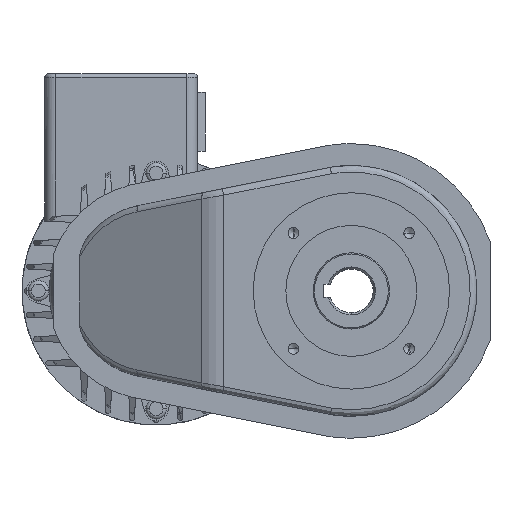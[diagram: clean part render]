
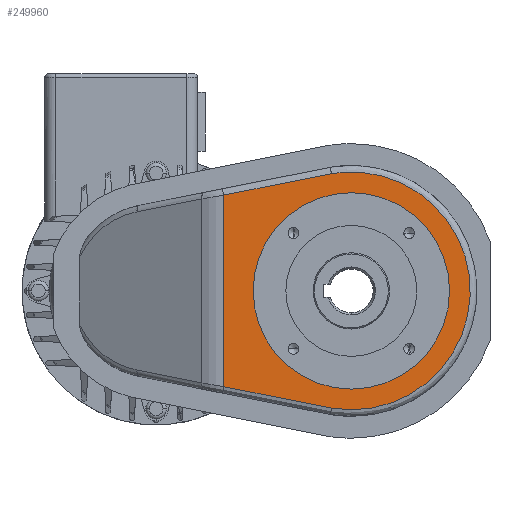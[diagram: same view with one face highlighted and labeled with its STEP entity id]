
A CAD part, left-side view. The second image highlights one B-rep face of the part: STEP entity #249960.
In plain terms, the highlighted planar face has unit normal (-1, 0, 0).
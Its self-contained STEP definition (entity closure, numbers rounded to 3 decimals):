
#248810=CARTESIAN_POINT('',(-204.3,341.55,-105.));
#248820=VERTEX_POINT('',#248810);
#248850=CARTESIAN_POINT('',(-204.3,341.55,-150.));
#248860=DIRECTION('',(-1.,0.,0.));
#248870=DIRECTION('',(0.,0.,1.));
#248880=AXIS2_PLACEMENT_3D('',#248850,#248860,#248870);
#248890=CIRCLE('',#248880,45.);
#248900=CARTESIAN_POINT('',(-204.3,341.55,-195.));
#248910=VERTEX_POINT('',#248900);
#248920=EDGE_CURVE('',#248910,#248820,#248890,.T.);
#249040=CARTESIAN_POINT('',(-204.3,357.75,-103.971));
#249050=DIRECTION('',(-1.,0.,0.));
#249060=DIRECTION('',(0.,0.,1.));
#249070=AXIS2_PLACEMENT_3D('',#249040,#249050,#249060);
#249080=PLANE('',#249070);
#249090=CARTESIAN_POINT('',(-204.3,400.016,-103.62));
#249100=DIRECTION('',(0.,0.,1.));
#249110=VECTOR('',#249100,1.);
#249120=LINE('',#249090,#249110);
#249130=CARTESIAN_POINT('',(-204.3,400.016,-193.9));
#249140=VERTEX_POINT('',#249130);
#249150=CARTESIAN_POINT('',(-204.3,400.016,-106.1));
#249160=VERTEX_POINT('',#249150);
#249170=EDGE_CURVE('',#249140,#249160,#249120,.T.);
#249180=ORIENTED_EDGE('',*,*,#249170,.F.);
#249190=CARTESIAN_POINT('',(-204.3,350.644,-96.263));
#249200=CARTESIAN_POINT('',(-204.3,350.769,-96.288));
#249210=CARTESIAN_POINT('',(-204.3,350.887,-96.313));
#249220=CARTESIAN_POINT('',(-204.3,367.212,-99.565));
#249230=CARTESIAN_POINT('',(-204.3,383.406,-102.791));
#249240=CARTESIAN_POINT('',(-204.3,399.738,-106.045));
#249250=CARTESIAN_POINT('',(-204.3,399.877,-106.072));
#249260=CARTESIAN_POINT('',(-204.3,400.016,-106.1));
#249270=B_SPLINE_CURVE_WITH_KNOTS('',3,(#249190,#249200,#249210,#249220,
#249230,#249240,#249250,#249260),.UNSPECIFIED.,.F.,.F.,(4,2,2,4),(0.,
0.401,49.937,50.361),.UNSPECIFIED.);
#249280=CARTESIAN_POINT('',(-204.3,350.644,-96.263));
#249290=VERTEX_POINT('',#249280);
#249300=EDGE_CURVE('',#249290,#249160,#249270,.T.);
#249310=ORIENTED_EDGE('',*,*,#249300,.T.);
#249320=CARTESIAN_POINT('',(-204.3,350.644,-203.737));
#249330=CARTESIAN_POINT('',(-204.3,350.583,-203.747));
#249340=CARTESIAN_POINT('',(-204.3,350.524,-203.757));
#249350=CARTESIAN_POINT('',(-204.3,350.403,-203.776));
#249360=CARTESIAN_POINT('',(-204.3,350.342,-203.786));
#249370=CARTESIAN_POINT('',(-204.3,347.579,-204.235));
#249380=CARTESIAN_POINT('',(-204.3,344.847,-204.469));
#249390=CARTESIAN_POINT('',(-204.3,337.606,-204.543));
#249400=CARTESIAN_POINT('',(-204.3,333.116,-204.031));
#249410=CARTESIAN_POINT('',(-204.3,324.365,-201.915));
#249420=CARTESIAN_POINT('',(-204.3,320.138,-200.319));
#249430=CARTESIAN_POINT('',(-204.3,312.171,-196.124));
#249440=CARTESIAN_POINT('',(-204.3,308.464,-193.541));
#249450=CARTESIAN_POINT('',(-204.3,301.768,-187.522));
#249460=CARTESIAN_POINT('',(-204.3,298.806,-184.109));
#249470=CARTESIAN_POINT('',(-204.3,293.788,-176.634));
#249480=CARTESIAN_POINT('',(-204.3,291.753,-172.599));
#249490=CARTESIAN_POINT('',(-204.3,289.184,-165.42));
#249500=CARTESIAN_POINT('',(-204.3,288.386,-162.395));
#249510=CARTESIAN_POINT('',(-204.3,287.318,-156.24));
#249520=CARTESIAN_POINT('',(-204.3,287.05,-153.123));
#249530=CARTESIAN_POINT('',(-204.3,287.05,-150.));
#249540=CARTESIAN_POINT('',(-204.3,287.05,-145.498));
#249550=CARTESIAN_POINT('',(-204.3,287.608,-141.014));
#249560=CARTESIAN_POINT('',(-204.3,289.813,-132.285));
#249570=CARTESIAN_POINT('',(-204.3,291.452,-128.074));
#249580=CARTESIAN_POINT('',(-204.3,295.729,-120.151));
#249590=CARTESIAN_POINT('',(-204.3,298.35,-116.47));
#249600=CARTESIAN_POINT('',(-204.3,304.437,-109.836));
#249610=CARTESIAN_POINT('',(-204.3,307.88,-106.909));
#249620=CARTESIAN_POINT('',(-204.3,315.406,-101.968));
#249630=CARTESIAN_POINT('',(-204.3,319.461,-99.974));
#249640=CARTESIAN_POINT('',(-204.3,327.969,-97.028));
#249650=CARTESIAN_POINT('',(-204.3,332.389,-96.087));
#249660=CARTESIAN_POINT('',(-204.3,341.359,-95.315));
#249670=CARTESIAN_POINT('',(-204.3,345.875,-95.486));
#249680=CARTESIAN_POINT('',(-204.3,350.375,-96.219));
#249690=CARTESIAN_POINT('',(-204.3,350.43,-96.228));
#249700=CARTESIAN_POINT('',(-204.3,350.537,-96.245));
#249710=CARTESIAN_POINT('',(-204.3,350.59,-96.254));
#249720=CARTESIAN_POINT('',(-204.3,350.644,-96.263));
#249730=B_SPLINE_CURVE_WITH_KNOTS('',3,(#249320,#249330,#249340,#249350,
#249360,#249370,#249380,#249390,#249400,#249410,#249420,#249430,#249440,
#249450,#249460,#249470,#249480,#249490,#249500,#249510,#249520,#249530,
#249540,#249550,#249560,#249570,#249580,#249590,#249600,#249610,#249620,
#249630,#249640,#249650,#249660,#249670,#249680,#249690,#249700,#249710,
#249720),.UNSPECIFIED.,.F.,.F.,(4,2,2,2,2,2,2,2,2,2,3,2,2,2,2,2,2,2,2,4)
,(0.,0.2,0.401,8.841,22.71
,36.578,50.446,64.314,78.182,
87.804,97.425,111.293,125.161,
139.029,152.898,166.766,180.634,
194.502,194.681,194.861),.UNSPECIFIED.);
#249740=CARTESIAN_POINT('',(-204.3,350.644,-203.737));
#249750=VERTEX_POINT('',#249740);
#249760=EDGE_CURVE('',#249750,#249290,#249730,.T.);
#249770=ORIENTED_EDGE('',*,*,#249760,.T.);
#249780=CARTESIAN_POINT('',(-204.3,400.016,-193.9));
#249790=CARTESIAN_POINT('',(-204.3,399.877,-193.928));
#249800=CARTESIAN_POINT('',(-204.3,399.738,-193.955));
#249810=CARTESIAN_POINT('',(-204.3,383.406,-197.209));
#249820=CARTESIAN_POINT('',(-204.3,367.212,-200.435));
#249830=CARTESIAN_POINT('',(-204.3,350.887,-203.687));
#249840=CARTESIAN_POINT('',(-204.3,350.769,-203.712));
#249850=CARTESIAN_POINT('',(-204.3,350.644,-203.737));
#249860=B_SPLINE_CURVE_WITH_KNOTS('',3,(#249780,#249790,#249800,#249810,
#249820,#249830,#249840,#249850),.UNSPECIFIED.,.F.,.F.,(4,2,2,4),(0.,
0.424,49.96,50.361),.UNSPECIFIED.);
#249870=EDGE_CURVE('',#249140,#249750,#249860,.T.);
#249880=ORIENTED_EDGE('',*,*,#249870,.T.);
#249890=EDGE_LOOP('',(#249880,#249770,#249310,#249180));
#249900=FACE_OUTER_BOUND('',#249890,.T.);
#249910=EDGE_CURVE('',#248820,#248910,#248890,.T.);
#249920=ORIENTED_EDGE('',*,*,#249910,.F.);
#249930=ORIENTED_EDGE('',*,*,#248920,.F.);
#249940=EDGE_LOOP('',(#249930,#249920));
#249950=FACE_BOUND('',#249940,.T.);
#249960=ADVANCED_FACE('',(#249900,#249950),#249080,.T.);
